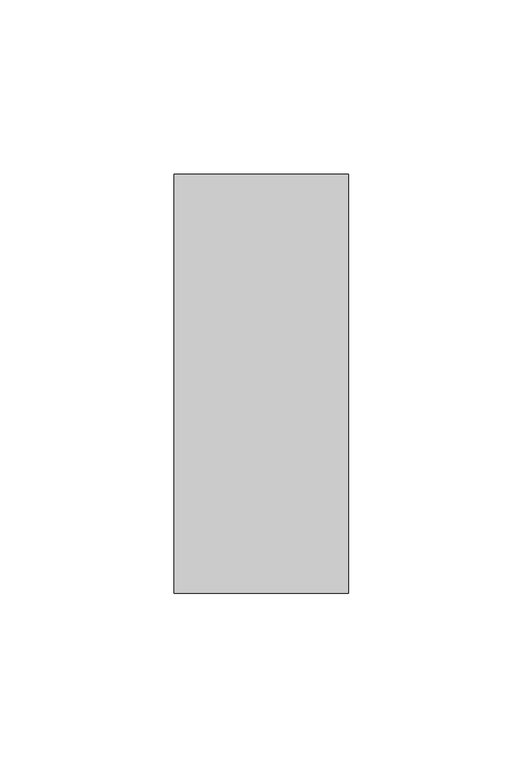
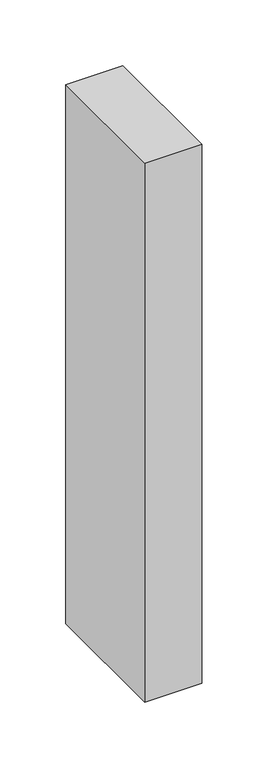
"""IFC4 building model written with IfcOpenShell, lengths in millimetres: member geometry, Прямоугольный импост : 50х120 мм."""

from ifc_helpers import new_model, si_unit, frame, origin, place, context, project, spatial, polyline, outline, extrude, source, transform, mapped, element, save


def member_be4b0839(model_context):
    return source(origin(), model_context, "Body", "SweptSolid", [
        extrude(outline(polyline([(0.0, 60.0), (0.0, -60.0), (-50.0, -60.0), (-50.0, 60.0), (0.0, 60.0)])), frame((0.0, 0.0, -500.0), z_axis=(0.0, 0.0, 1.0), x_axis=(1.0, 0.0, 0.0)), (0.0, 0.0, 1.0), 500.0),
    ])


if __name__ == "__main__":
    model = new_model("IFC4")
    model_context = context("Model", 3, world=origin())
    ifc_project = project(units=[si_unit("LENGTHUNIT", "METRE", prefix="MILLI")], contexts=[model_context])
    site = spatial("IfcSite", under=ifc_project)
    building = spatial("IfcBuilding", under=site)
    placement = place(None, origin())
    member_shape = member_be4b0839(model_context)
    element("IfcMember", 1, ObjectType="Прямоугольный импост : 50х120 мм", at=placement, inside=building, context=model_context, shape_type="MappedRepresentation", body=[
        mapped(member_shape, transform((0.0, 0.0, 0.0), x_axis=(1.0, 0.0, 0.0), y_axis=(0.0, 1.0, 0.0), z_axis=(0.0, 0.0, 1.0))),
    ])
    save(model, "model.ifc")
